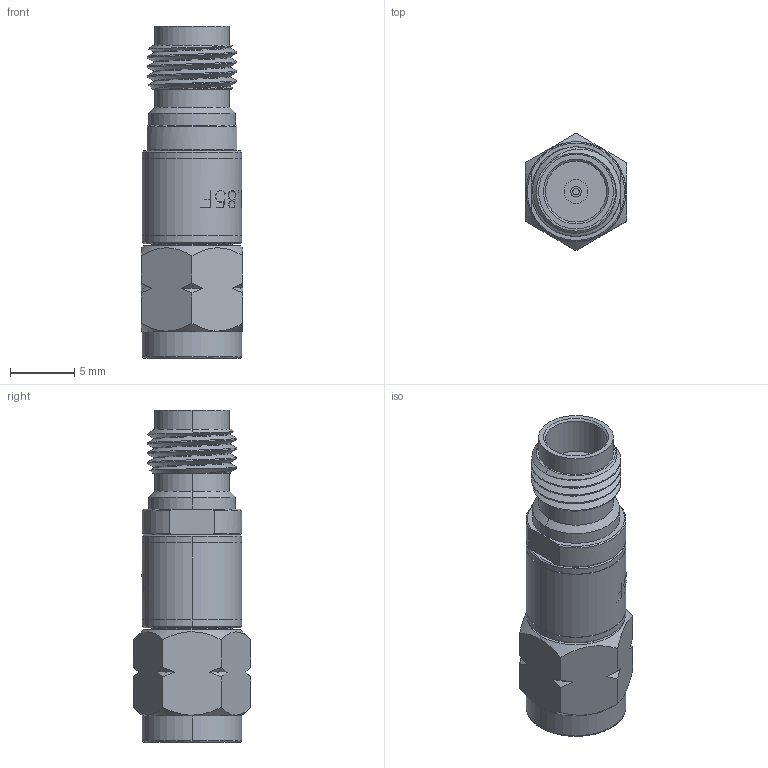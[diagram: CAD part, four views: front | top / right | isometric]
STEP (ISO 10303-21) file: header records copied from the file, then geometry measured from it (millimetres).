
FILE_DESCRIPTION (( 'STEP AP203' ), '1' );
FILE_NAME ('8134000K001-802-Cst.STEP', '2020-10-29T19:11:06', ( '' ), ( '' ), 'SwSTEP 2.0', 'SolidWorks 2019', '' );
FILE_SCHEMA (( 'CONFIG_CONTROL_DESIGN' ));
Length unit declared in the file: inch
Products named in the file (1): 8134000K001-802-Cst
Bounding box: 7.92 x 9.15 x 25.93 mm (x, y, z)
Volume: 922.4 mm3; surface area: 1280.3 mm2
Topology: 1 solids, 1 shells, 434 faces, 1159 edges, 764 vertices
Faces by surface type: bspline 170, plane 125, cylinder 91, cone 48
Entity records: 17380 total; most frequent: CARTESIAN_POINT 7642, ORIENTED_EDGE 2318, DIRECTION 1505, EDGE_CURVE 1159, VERTEX_POINT 764, AXIS2_PLACEMENT_3D 522, EDGE_LOOP 475, VECTOR 461
